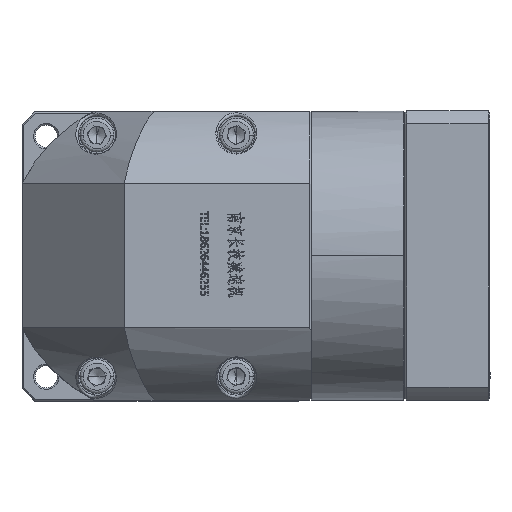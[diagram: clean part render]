
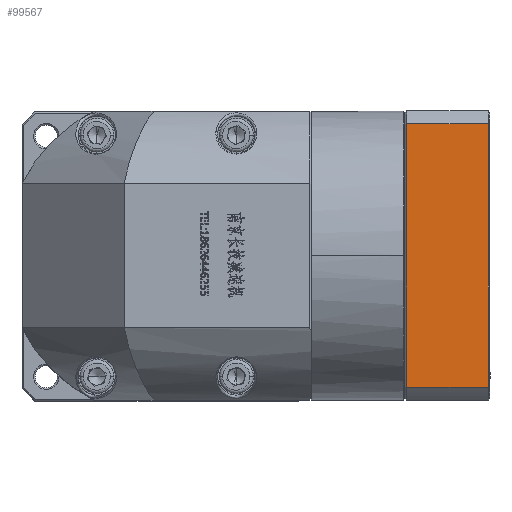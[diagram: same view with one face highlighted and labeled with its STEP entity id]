
A CAD part, top view. The second image highlights one B-rep face of the part: STEP entity #99567.
In plain terms, the highlighted planar face has unit normal (0, 0, 1).
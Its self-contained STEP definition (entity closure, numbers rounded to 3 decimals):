
#182 = CARTESIAN_POINT ( 'NONE',  ( 110.26, 102.722, 47.486 ) ) ;
#824 = EDGE_CURVE ( 'NONE', #167668, #163137, #23441, .T. ) ;
#4734 = ORIENTED_EDGE ( 'NONE', *, *, #128976, .F. ) ;
#13924 = DIRECTION ( 'NONE',  ( 0., 1., 0. ) ) ;
#23441 = LINE ( 'NONE', #42209, #27721 ) ;
#27721 = VECTOR ( 'NONE', #55428, 1000. ) ;
#29663 = CARTESIAN_POINT ( 'NONE',  ( 109.76, 183.952, 47.486 ) ) ;
#30788 = LINE ( 'NONE', #150736, #67313 ) ;
#35168 = VERTEX_POINT ( 'NONE', #87582 ) ;
#35528 = ORIENTED_EDGE ( 'NONE', *, *, #162040, .T. ) ;
#42209 = CARTESIAN_POINT ( 'NONE',  ( -79.001, 106.492, 47.486 ) ) ;
#50786 = EDGE_CURVE ( 'NONE', #65279, #167668, #102946, .T. ) ;
#55428 = DIRECTION ( 'NONE',  ( -1., 0., 0. ) ) ;
#65279 = VERTEX_POINT ( 'NONE', #29663 ) ;
#67313 = VECTOR ( 'NONE', #81231, 1000. ) ;
#69310 = DIRECTION ( 'NONE',  ( 0., -1., 0. ) ) ;
#75808 = ORIENTED_EDGE ( 'NONE', *, *, #50786, .F. ) ;
#76814 = LINE ( 'NONE', #89267, #149750 ) ;
#79001 = AXIS2_PLACEMENT_3D ( 'NONE', #182, #96062, #13924 ) ;
#81231 = DIRECTION ( 'NONE',  ( 1., 0., 0. ) ) ;
#87582 = CARTESIAN_POINT ( 'NONE',  ( 85.76, 183.952, 47.486 ) ) ;
#89267 = CARTESIAN_POINT ( 'NONE',  ( 85.76, 102.722, 47.486 ) ) ;
#96062 = DIRECTION ( 'NONE',  ( 0., 0., -1. ) ) ;
#99567 = ADVANCED_FACE ( 'NONE', ( #118040 ), #162085, .F. ) ;
#102946 = LINE ( 'NONE', #147332, #135160 ) ;
#107870 = CARTESIAN_POINT ( 'NONE',  ( 109.76, 106.492, 47.486 ) ) ;
#113384 = CARTESIAN_POINT ( 'NONE',  ( 85.76, 106.492, 47.486 ) ) ;
#118040 = FACE_OUTER_BOUND ( 'NONE', #173410, .T. ) ;
#128976 = EDGE_CURVE ( 'NONE', #35168, #65279, #30788, .T. ) ;
#135160 = VECTOR ( 'NONE', #69310, 1000. ) ;
#147332 = CARTESIAN_POINT ( 'NONE',  ( 109.76, 102.722, 47.486 ) ) ;
#149750 = VECTOR ( 'NONE', #157615, 1000. ) ;
#150736 = CARTESIAN_POINT ( 'NONE',  ( 110.26, 183.952, 47.486 ) ) ;
#157615 = DIRECTION ( 'NONE',  ( 0., -1., 0. ) ) ;
#162040 = EDGE_CURVE ( 'NONE', #35168, #163137, #76814, .T. ) ;
#162085 = PLANE ( 'NONE',  #79001 ) ;
#163137 = VERTEX_POINT ( 'NONE', #113384 ) ;
#167668 = VERTEX_POINT ( 'NONE', #107870 ) ;
#173410 = EDGE_LOOP ( 'NONE', ( #35528, #174751, #75808, #4734 ) ) ;
#174751 = ORIENTED_EDGE ( 'NONE', *, *, #824, .F. ) ;
